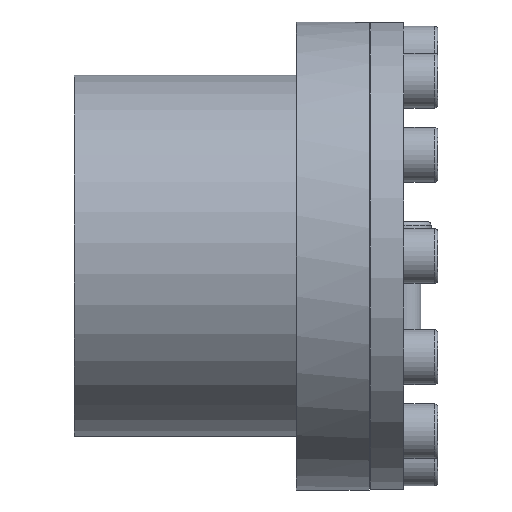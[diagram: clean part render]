
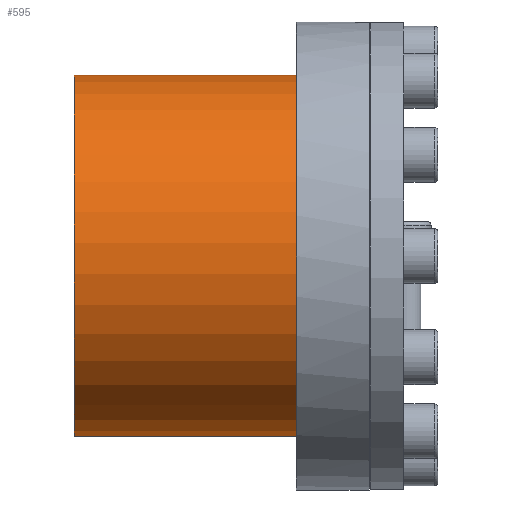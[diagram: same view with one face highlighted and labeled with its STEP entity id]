
A CAD part, left-side view. The second image highlights one B-rep face of the part: STEP entity #595.
In plain terms, the highlighted cylindrical face has radius 53 mm (diameter 106 mm), a partial arc.
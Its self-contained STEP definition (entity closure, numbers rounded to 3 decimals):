
#595 = ADVANCED_FACE( '', ( #1143 ), #1144, .T. );
#1143 = FACE_OUTER_BOUND( '', #1979, .T. );
#1144 = CYLINDRICAL_SURFACE( '', #1980, 53. );
#1979 = EDGE_LOOP( '', ( #2960, #2961, #2962, #2963 ) );
#1980 = AXIS2_PLACEMENT_3D( '', #2964, #2965, #2966 );
#2960 = ORIENTED_EDGE( '', *, *, #4727, .F. );
#2961 = ORIENTED_EDGE( '', *, *, #4762, .F. );
#2962 = ORIENTED_EDGE( '', *, *, #4738, .F. );
#2963 = ORIENTED_EDGE( '', *, *, #4776, .T. );
#2964 = CARTESIAN_POINT( '', ( 0., -60., 0. ) );
#2965 = DIRECTION( '', ( 0., 1., 0. ) );
#2966 = DIRECTION( '', ( 0., 0., -1. ) );
#4727 = EDGE_CURVE( '', #5260, #5262, #5263, .F. );
#4738 = EDGE_CURVE( '', #5276, #5278, #5279, .T. );
#4762 = EDGE_CURVE( '', #5278, #5260, #5320, .T. );
#4776 = EDGE_CURVE( '', #5276, #5262, #5347, .T. );
#5260 = VERTEX_POINT( '', #6043 );
#5262 = VERTEX_POINT( '', #6046 );
#5263 = LINE( '', #6047, #6048 );
#5276 = VERTEX_POINT( '', #6070 );
#5278 = VERTEX_POINT( '', #6073 );
#5279 = LINE( '', #6074, #6075 );
#5320 = CIRCLE( '', #6123, 53. );
#5347 = CIRCLE( '', #6150, 53. );
#6043 = CARTESIAN_POINT( '', ( 15.174, 31.5, 50.781 ) );
#6046 = CARTESIAN_POINT( '', ( 15.174, 96.5, 50.781 ) );
#6047 = CARTESIAN_POINT( '', ( 15.174, -60., 50.781 ) );
#6048 = VECTOR( '', #7453, 1000. );
#6070 = CARTESIAN_POINT( '', ( 12.249, 96.5, 51.565 ) );
#6073 = CARTESIAN_POINT( '', ( 12.249, 31.5, 51.565 ) );
#6074 = CARTESIAN_POINT( '', ( 12.249, -60., 51.565 ) );
#6075 = VECTOR( '', #7470, 1000. );
#6123 = AXIS2_PLACEMENT_3D( '', #7529, #7530, #7531 );
#6150 = AXIS2_PLACEMENT_3D( '', #7571, #7572, #7573 );
#7453 = DIRECTION( '', ( 0., -1., 0. ) );
#7470 = DIRECTION( '', ( 0., -1., 0. ) );
#7529 = CARTESIAN_POINT( '', ( 0., 31.5, 0. ) );
#7530 = DIRECTION( '', ( 0., -1., 0. ) );
#7531 = DIRECTION( '', ( 0., 0., -1. ) );
#7571 = CARTESIAN_POINT( '', ( 0., 96.5, 0. ) );
#7572 = DIRECTION( '', ( 0., -1., 0. ) );
#7573 = DIRECTION( '', ( 0., 0., -1. ) );
